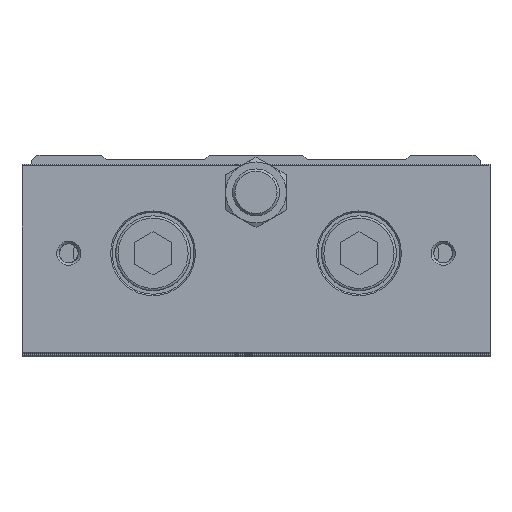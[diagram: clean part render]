
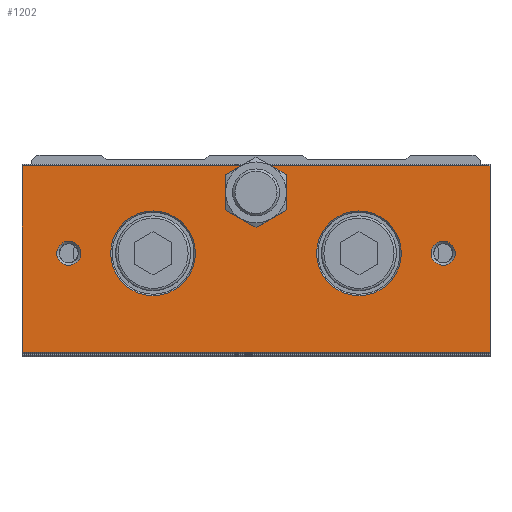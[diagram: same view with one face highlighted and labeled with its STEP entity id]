
A CAD part, top view. The second image highlights one B-rep face of the part: STEP entity #1202.
In plain terms, the highlighted planar face has unit normal (0, 0, 1).
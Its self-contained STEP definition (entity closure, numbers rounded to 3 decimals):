
#1044=CARTESIAN_POINT('',(42.567,-0.75,212.5));
#1045=VERTEX_POINT('',#1044);
#1046=CARTESIAN_POINT('',(40.0,-0.75,212.5));
#1047=DIRECTION('',(0.0,0.0,1.0));
#1048=DIRECTION('',(-1.0,0.0,0.0));
#1049=AXIS2_PLACEMENT_3D('',#1046,#1047,#1048);
#1050=CIRCLE('',#1049,2.567);
#1051=EDGE_CURVE('',#1045,#1045,#1050,.T.);
#1056=CARTESIAN_POINT('',(0.0,-22.25,212.5));
#1057=DIRECTION('',(0.0,0.0,1.0));
#1058=DIRECTION('',(1.0,0.0,0.0));
#1059=AXIS2_PLACEMENT_3D('',#1056,#1057,#1058);
#1060=PLANE('',#1059);
#1061=CARTESIAN_POINT('',(50.0,-21.95,212.5));
#1062=VERTEX_POINT('',#1061);
#1063=CARTESIAN_POINT('',(-50.0,-21.95,212.5));
#1064=VERTEX_POINT('',#1063);
#1065=CARTESIAN_POINT('',(50.0,-21.95,212.5));
#1066=DIRECTION('',(-1.0,0.0,0.0));
#1067=VECTOR('',#1066,100.0);
#1068=LINE('',#1065,#1067);
#1069=EDGE_CURVE('',#1062,#1064,#1068,.T.);
#1070=ORIENTED_EDGE('',*,*,#1069,.F.);
#1071=CARTESIAN_POINT('',(50.0,17.95,212.5));
#1072=VERTEX_POINT('',#1071);
#1073=CARTESIAN_POINT('',(50.0,-21.95,212.5));
#1074=DIRECTION('',(0.0,1.0,0.0));
#1075=VECTOR('',#1074,39.9);
#1076=LINE('',#1073,#1075);
#1077=EDGE_CURVE('',#1062,#1072,#1076,.T.);
#1078=ORIENTED_EDGE('',*,*,#1077,.T.);
#1079=CARTESIAN_POINT('',(3.124,17.95,212.5));
#1080=VERTEX_POINT('',#1079);
#1081=CARTESIAN_POINT('',(3.124,17.95,212.5));
#1082=DIRECTION('',(1.0,0.0,0.0));
#1083=VECTOR('',#1082,46.876);
#1084=LINE('',#1081,#1083);
#1085=EDGE_CURVE('',#1080,#1072,#1084,.T.);
#1086=ORIENTED_EDGE('',*,*,#1085,.F.);
#1087=CARTESIAN_POINT('',(3.25,17.879,212.5));
#1088=VERTEX_POINT('',#1087);
#1089=CARTESIAN_POINT('',(0.0,12.25,212.5));
#1090=DIRECTION('',(0.0,0.0,1.0));
#1091=DIRECTION('',(0.0,1.0,0.0));
#1092=AXIS2_PLACEMENT_3D('',#1089,#1090,#1091);
#1093=CIRCLE('',#1092,6.5);
#1094=EDGE_CURVE('',#1088,#1080,#1093,.T.);
#1095=ORIENTED_EDGE('',*,*,#1094,.F.);
#1096=CARTESIAN_POINT('',(6.5,12.25,212.5));
#1097=VERTEX_POINT('',#1096);
#1098=CARTESIAN_POINT('',(0.0,12.25,212.5));
#1099=DIRECTION('',(0.0,0.0,1.0));
#1100=DIRECTION('',(0.0,1.0,0.0));
#1101=AXIS2_PLACEMENT_3D('',#1098,#1099,#1100);
#1102=CIRCLE('',#1101,6.5);
#1103=EDGE_CURVE('',#1097,#1088,#1102,.T.);
#1104=ORIENTED_EDGE('',*,*,#1103,.F.);
#1105=CARTESIAN_POINT('',(3.25,6.621,212.5));
#1106=VERTEX_POINT('',#1105);
#1107=CARTESIAN_POINT('',(0.0,12.25,212.5));
#1108=DIRECTION('',(0.0,0.0,1.0));
#1109=DIRECTION('',(0.0,1.0,0.0));
#1110=AXIS2_PLACEMENT_3D('',#1107,#1108,#1109);
#1111=CIRCLE('',#1110,6.5);
#1112=EDGE_CURVE('',#1106,#1097,#1111,.T.);
#1113=ORIENTED_EDGE('',*,*,#1112,.F.);
#1114=CARTESIAN_POINT('',(-3.25,6.621,212.5));
#1115=VERTEX_POINT('',#1114);
#1116=CARTESIAN_POINT('',(0.0,12.25,212.5));
#1117=DIRECTION('',(0.0,0.0,1.0));
#1118=DIRECTION('',(0.0,1.0,0.0));
#1119=AXIS2_PLACEMENT_3D('',#1116,#1117,#1118);
#1120=CIRCLE('',#1119,6.5);
#1121=EDGE_CURVE('',#1115,#1106,#1120,.T.);
#1122=ORIENTED_EDGE('',*,*,#1121,.F.);
#1123=CARTESIAN_POINT('',(-6.5,12.25,212.5));
#1124=VERTEX_POINT('',#1123);
#1125=CARTESIAN_POINT('',(0.0,12.25,212.5));
#1126=DIRECTION('',(0.0,0.0,1.0));
#1127=DIRECTION('',(0.0,1.0,0.0));
#1128=AXIS2_PLACEMENT_3D('',#1125,#1126,#1127);
#1129=CIRCLE('',#1128,6.5);
#1130=EDGE_CURVE('',#1124,#1115,#1129,.T.);
#1131=ORIENTED_EDGE('',*,*,#1130,.F.);
#1132=CARTESIAN_POINT('',(-3.25,17.879,212.5));
#1133=VERTEX_POINT('',#1132);
#1134=CARTESIAN_POINT('',(0.0,12.25,212.5));
#1135=DIRECTION('',(0.0,0.0,1.0));
#1136=DIRECTION('',(0.0,1.0,0.0));
#1137=AXIS2_PLACEMENT_3D('',#1134,#1135,#1136);
#1138=CIRCLE('',#1137,6.5);
#1139=EDGE_CURVE('',#1133,#1124,#1138,.T.);
#1140=ORIENTED_EDGE('',*,*,#1139,.F.);
#1141=CARTESIAN_POINT('',(-3.124,17.95,212.5));
#1142=VERTEX_POINT('',#1141);
#1143=CARTESIAN_POINT('',(0.0,12.25,212.5));
#1144=DIRECTION('',(0.0,0.0,1.0));
#1145=DIRECTION('',(0.0,1.0,0.0));
#1146=AXIS2_PLACEMENT_3D('',#1143,#1144,#1145);
#1147=CIRCLE('',#1146,6.5);
#1148=EDGE_CURVE('',#1142,#1133,#1147,.T.);
#1149=ORIENTED_EDGE('',*,*,#1148,.F.);
#1150=CARTESIAN_POINT('',(-50.0,17.95,212.5));
#1151=VERTEX_POINT('',#1150);
#1152=CARTESIAN_POINT('',(-50.0,17.95,212.5));
#1153=DIRECTION('',(1.0,0.0,0.0));
#1154=VECTOR('',#1153,46.876);
#1155=LINE('',#1152,#1154);
#1156=EDGE_CURVE('',#1151,#1142,#1155,.T.);
#1157=ORIENTED_EDGE('',*,*,#1156,.F.);
#1158=CARTESIAN_POINT('',(-50.0,17.95,212.5));
#1159=DIRECTION('',(0.0,-1.0,0.0));
#1160=VECTOR('',#1159,39.9);
#1161=LINE('',#1158,#1160);
#1162=EDGE_CURVE('',#1151,#1064,#1161,.T.);
#1163=ORIENTED_EDGE('',*,*,#1162,.T.);
#1164=EDGE_LOOP('',(#1070,#1078,#1086,#1095,#1104,#1113,#1122,#1131,#1140,#1149,#1157,#1163));
#1165=FACE_OUTER_BOUND('',#1164,.T.);
#1166=CARTESIAN_POINT('',(-37.433,-0.75,212.5));
#1167=VERTEX_POINT('',#1166);
#1168=CARTESIAN_POINT('',(-40.0,-0.75,212.5));
#1169=DIRECTION('',(0.0,0.0,1.0));
#1170=DIRECTION('',(-1.0,0.0,0.0));
#1171=AXIS2_PLACEMENT_3D('',#1168,#1169,#1170);
#1172=CIRCLE('',#1171,2.567);
#1173=EDGE_CURVE('',#1167,#1167,#1172,.T.);
#1174=ORIENTED_EDGE('',*,*,#1173,.F.);
#1175=EDGE_LOOP('',(#1174));
#1176=FACE_BOUND('',#1175,.T.);
#1177=CARTESIAN_POINT('',(-12.95,-0.75,212.5));
#1178=VERTEX_POINT('',#1177);
#1179=CARTESIAN_POINT('',(-22.0,-0.75,212.5));
#1180=DIRECTION('',(0.0,0.0,1.0));
#1181=DIRECTION('',(-1.0,0.0,0.0));
#1182=AXIS2_PLACEMENT_3D('',#1179,#1180,#1181);
#1183=CIRCLE('',#1182,9.05);
#1184=EDGE_CURVE('',#1178,#1178,#1183,.T.);
#1185=ORIENTED_EDGE('',*,*,#1184,.F.);
#1186=EDGE_LOOP('',(#1185));
#1187=FACE_BOUND('',#1186,.T.);
#1188=CARTESIAN_POINT('',(31.05,-0.75,212.5));
#1189=VERTEX_POINT('',#1188);
#1190=CARTESIAN_POINT('',(22.0,-0.75,212.5));
#1191=DIRECTION('',(0.0,0.0,1.0));
#1192=DIRECTION('',(-1.0,0.0,0.0));
#1193=AXIS2_PLACEMENT_3D('',#1190,#1191,#1192);
#1194=CIRCLE('',#1193,9.05);
#1195=EDGE_CURVE('',#1189,#1189,#1194,.T.);
#1196=ORIENTED_EDGE('',*,*,#1195,.F.);
#1197=EDGE_LOOP('',(#1196));
#1198=FACE_BOUND('',#1197,.T.);
#1199=ORIENTED_EDGE('',*,*,#1051,.F.);
#1200=EDGE_LOOP('',(#1199));
#1201=FACE_BOUND('',#1200,.T.);
#1202=ADVANCED_FACE('',(#1165,#1176,#1187,#1198,#1201),#1060,.T.);
